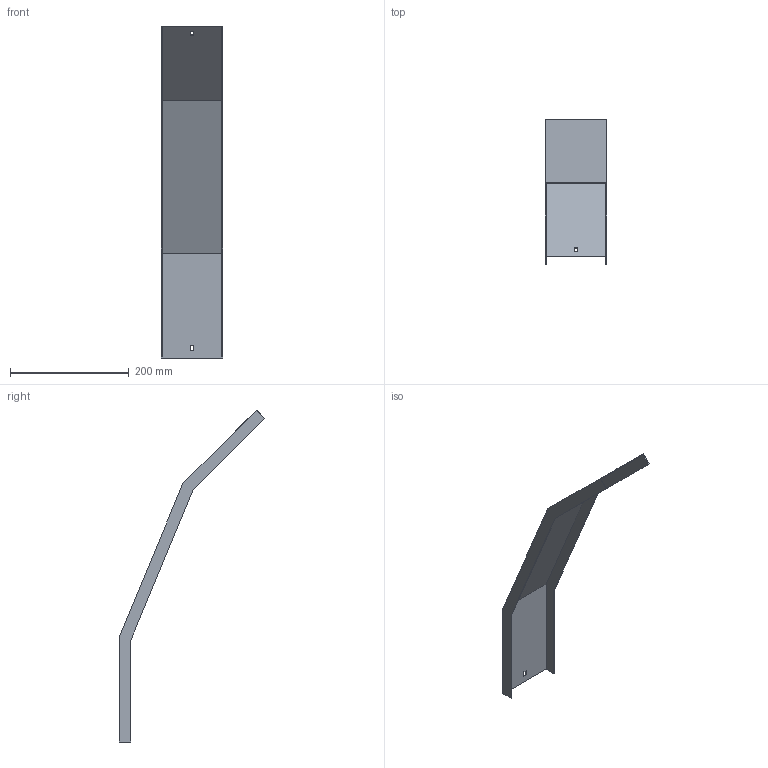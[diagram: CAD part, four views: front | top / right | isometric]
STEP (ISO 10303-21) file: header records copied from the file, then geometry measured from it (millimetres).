
FILE_DESCRIPTION (( 'STEP AP214' ), '1' );
FILE_NAME ('A2_34N3J100.step', '2025-02-21T10:35:14', ( '' ), ( '' ), 'SwSTEP 2.0', 'SolidWorks 2023', '' );
FILE_SCHEMA (( 'AUTOMOTIVE_DESIGN' ));
Length unit declared in the file: millimetre
Products named in the file (1): A2_34N3J100
Bounding box: 103 x 246.09 x 559.98 mm (x, y, z)
Volume: 132169.3 mm3; surface area: 178591.6 mm2
Topology: 1 solids, 1 shells, 26 faces, 72 edges, 48 vertices
Faces by surface type: plane 26
Entity records: 847 total; most frequent: CARTESIAN_POINT 147, ORIENTED_EDGE 144, DIRECTION 126, VECTOR 72, EDGE_CURVE 72, LINE 72, VERTEX_POINT 48, EDGE_LOOP 30
